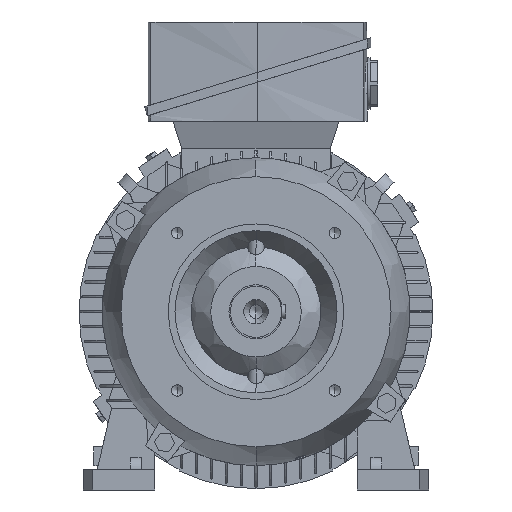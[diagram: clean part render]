
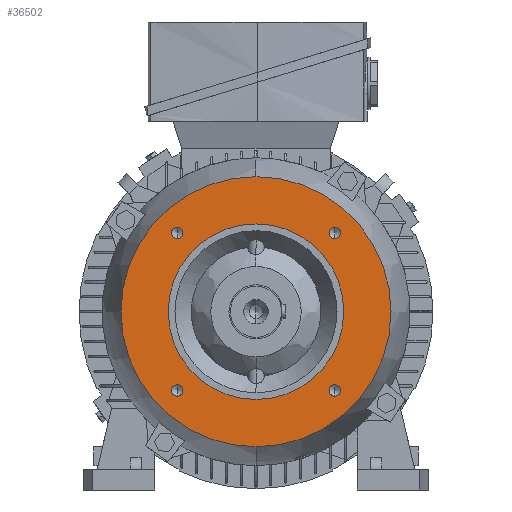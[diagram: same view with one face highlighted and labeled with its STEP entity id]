
A CAD part, left-side view. The second image highlights one B-rep face of the part: STEP entity #36502.
In plain terms, the highlighted planar face has unit normal (-1, 0, 0).
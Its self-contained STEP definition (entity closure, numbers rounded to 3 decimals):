
#356 = AXIS2_PLACEMENT_3D ( 'NONE', #37889, #33096, #31246 ) ;
#653 = AXIS2_PLACEMENT_3D ( 'NONE', #22185, #22124, #22115 ) ;
#660 = ORIENTED_EDGE ( 'NONE', *, *, #29118, .T. ) ;
#675 = AXIS2_PLACEMENT_3D ( 'NONE', #36195, #14345, #39709 ) ;
#1193 = VERTEX_POINT ( 'NONE', #29685 ) ;
#1333 = AXIS2_PLACEMENT_3D ( 'NONE', #14327, #39682, #18013 ) ;
#1375 = ORIENTED_EDGE ( 'NONE', *, *, #3208, .T. ) ;
#2162 = CARTESIAN_POINT ( 'NONE',  ( -50.5, 58.336, 62.526 ) ) ;
#2385 = FACE_BOUND ( 'NONE', #43590, .T. ) ;
#3208 = EDGE_CURVE ( 'NONE', #5893, #17225, #6634, .T. ) ;
#3733 = AXIS2_PLACEMENT_3D ( 'NONE', #17066, #16991, #16952 ) ;
#4449 = CARTESIAN_POINT ( 'NONE',  ( -50.5, 0., -100. ) ) ;
#5852 = AXIS2_PLACEMENT_3D ( 'NONE', #10610, #10177, #10008 ) ;
#5893 = VERTEX_POINT ( 'NONE', #28102 ) ;
#6286 = CARTESIAN_POINT ( 'NONE',  ( -50.5, -58.336, -58.336 ) ) ;
#6558 = CARTESIAN_POINT ( 'NONE',  ( -50.5, -58.336, 62.526 ) ) ;
#6629 = DIRECTION ( 'NONE',  ( 1., 0., 0. ) ) ;
#6634 = CIRCLE ( 'NONE', #3733, 65. ) ;
#6696 = CARTESIAN_POINT ( 'NONE',  ( -50.5, 0., 65. ) ) ;
#7767 = ORIENTED_EDGE ( 'NONE', *, *, #29263, .T. ) ;
#8067 = EDGE_CURVE ( 'NONE', #36523, #10291, #24068, .T. ) ;
#8604 = CIRCLE ( 'NONE', #5852, 100. ) ;
#10008 = DIRECTION ( 'NONE',  ( 0., 0., -1. ) ) ;
#10093 = DIRECTION ( 'NONE',  ( 0., 0., -1. ) ) ;
#10177 = DIRECTION ( 'NONE',  ( 1., 0., 0. ) ) ;
#10291 = VERTEX_POINT ( 'NONE', #42788 ) ;
#10610 = CARTESIAN_POINT ( 'NONE',  ( -50.5, 0., 0. ) ) ;
#12170 = AXIS2_PLACEMENT_3D ( 'NONE', #37758, #44901, #41304 ) ;
#12184 = EDGE_LOOP ( 'NONE', ( #44605, #41548 ) ) ;
#12401 = DIRECTION ( 'NONE',  ( 1., 0., 0. ) ) ;
#13694 = EDGE_CURVE ( 'NONE', #19109, #22440, #14865, .T. ) ;
#13972 = AXIS2_PLACEMENT_3D ( 'NONE', #34331, #12401, #37835 ) ;
#14327 = CARTESIAN_POINT ( 'NONE',  ( -50.5, 0., 82.5 ) ) ;
#14345 = DIRECTION ( 'NONE',  ( 1., 0., 0. ) ) ;
#14865 = CIRCLE ( 'NONE', #653, 4.19 ) ;
#15423 = AXIS2_PLACEMENT_3D ( 'NONE', #28789, #6629, #32400 ) ;
#16518 = EDGE_LOOP ( 'NONE', ( #31030, #33660 ) ) ;
#16952 = DIRECTION ( 'NONE',  ( 0., 0., 1. ) ) ;
#16991 = DIRECTION ( 'NONE',  ( 1., 0., 0. ) ) ;
#17066 = CARTESIAN_POINT ( 'NONE',  ( -50.5, 0., 0. ) ) ;
#17225 = VERTEX_POINT ( 'NONE', #6696 ) ;
#17656 = FACE_BOUND ( 'NONE', #40892, .T. ) ;
#18013 = DIRECTION ( 'NONE',  ( 0., 0., 1. ) ) ;
#18278 = CARTESIAN_POINT ( 'NONE',  ( -50.5, -58.336, -54.146 ) ) ;
#18955 = EDGE_CURVE ( 'NONE', #10291, #36523, #31721, .T. ) ;
#19109 = VERTEX_POINT ( 'NONE', #35308 ) ;
#19516 = VERTEX_POINT ( 'NONE', #26756 ) ;
#19828 = DIRECTION ( 'NONE',  ( 1., 0., 0. ) ) ;
#22115 = DIRECTION ( 'NONE',  ( 0., 0., -1. ) ) ;
#22124 = DIRECTION ( 'NONE',  ( 1., 0., 0. ) ) ;
#22185 = CARTESIAN_POINT ( 'NONE',  ( -50.5, -58.336, 58.336 ) ) ;
#22295 = EDGE_CURVE ( 'NONE', #42271, #39814, #31341, .T. ) ;
#22440 = VERTEX_POINT ( 'NONE', #6558 ) ;
#22635 = VERTEX_POINT ( 'NONE', #18278 ) ;
#23376 = EDGE_CURVE ( 'NONE', #19516, #38775, #8604, .T. ) ;
#24068 = CIRCLE ( 'NONE', #33538, 4.19 ) ;
#24553 = EDGE_CURVE ( 'NONE', #22440, #19109, #44600, .T. ) ;
#24643 = ORIENTED_EDGE ( 'NONE', *, *, #8067, .T. ) ;
#25344 = CIRCLE ( 'NONE', #29568, 4.19 ) ;
#26756 = CARTESIAN_POINT ( 'NONE',  ( -50.5, 0., 100. ) ) ;
#28102 = CARTESIAN_POINT ( 'NONE',  ( -50.5, 0., -65. ) ) ;
#28712 = CIRCLE ( 'NONE', #30862, 4.19 ) ;
#28742 = AXIS2_PLACEMENT_3D ( 'NONE', #42333, #42288, #42199 ) ;
#28789 = CARTESIAN_POINT ( 'NONE',  ( -50.5, 0., 0. ) ) ;
#29118 = EDGE_CURVE ( 'NONE', #22635, #1193, #28712, .T. ) ;
#29263 = EDGE_CURVE ( 'NONE', #1193, #22635, #25344, .T. ) ;
#29568 = AXIS2_PLACEMENT_3D ( 'NONE', #6286, #32090, #10093 ) ;
#29685 = CARTESIAN_POINT ( 'NONE',  ( -50.5, -58.336, -62.526 ) ) ;
#30862 = AXIS2_PLACEMENT_3D ( 'NONE', #41405, #19828, #45060 ) ;
#30943 = EDGE_LOOP ( 'NONE', ( #39475, #1375 ) ) ;
#31030 = ORIENTED_EDGE ( 'NONE', *, *, #45029, .T. ) ;
#31246 = DIRECTION ( 'NONE',  ( 0., 0., -1. ) ) ;
#31341 = CIRCLE ( 'NONE', #12170, 4.19 ) ;
#31721 = CIRCLE ( 'NONE', #28742, 4.19 ) ;
#32090 = DIRECTION ( 'NONE',  ( 1., 0., 0. ) ) ;
#32400 = DIRECTION ( 'NONE',  ( 0., 0., 1. ) ) ;
#33096 = DIRECTION ( 'NONE',  ( 1., 0., 0. ) ) ;
#33314 = CARTESIAN_POINT ( 'NONE',  ( -50.5, 58.336, 54.146 ) ) ;
#33538 = AXIS2_PLACEMENT_3D ( 'NONE', #41901, #41964, #42018 ) ;
#33660 = ORIENTED_EDGE ( 'NONE', *, *, #22295, .T. ) ;
#34331 = CARTESIAN_POINT ( 'NONE',  ( -50.5, 0., 0. ) ) ;
#35308 = CARTESIAN_POINT ( 'NONE',  ( -50.5, -58.336, 54.146 ) ) ;
#36195 = CARTESIAN_POINT ( 'NONE',  ( -50.5, 58.336, 58.336 ) ) ;
#36292 = ORIENTED_EDGE ( 'NONE', *, *, #13694, .T. ) ;
#36502 = ADVANCED_FACE ( 'NONE', ( #39224, #45861, #38100, #17656, #39582, #2385 ), #46832, .T. ) ;
#36523 = VERTEX_POINT ( 'NONE', #43242 ) ;
#36945 = CIRCLE ( 'NONE', #13972, 100. ) ;
#37045 = EDGE_LOOP ( 'NONE', ( #7767, #660 ) ) ;
#37758 = CARTESIAN_POINT ( 'NONE',  ( -50.5, 58.336, 58.336 ) ) ;
#37835 = DIRECTION ( 'NONE',  ( 0., 0., -1. ) ) ;
#37889 = CARTESIAN_POINT ( 'NONE',  ( -50.5, -58.336, 58.336 ) ) ;
#38100 = FACE_BOUND ( 'NONE', #16518, .T. ) ;
#38775 = VERTEX_POINT ( 'NONE', #4449 ) ;
#39224 = FACE_BOUND ( 'NONE', #30943, .T. ) ;
#39475 = ORIENTED_EDGE ( 'NONE', *, *, #41908, .T. ) ;
#39582 = FACE_BOUND ( 'NONE', #37045, .T. ) ;
#39682 = DIRECTION ( 'NONE',  ( -1., 0., 0. ) ) ;
#39709 = DIRECTION ( 'NONE',  ( 0., 0., -1. ) ) ;
#39814 = VERTEX_POINT ( 'NONE', #33314 ) ;
#40892 = EDGE_LOOP ( 'NONE', ( #24643, #43069 ) ) ;
#41304 = DIRECTION ( 'NONE',  ( 0., 0., -1. ) ) ;
#41405 = CARTESIAN_POINT ( 'NONE',  ( -50.5, -58.336, -58.336 ) ) ;
#41548 = ORIENTED_EDGE ( 'NONE', *, *, #23376, .F. ) ;
#41901 = CARTESIAN_POINT ( 'NONE',  ( -50.5, 58.336, -58.336 ) ) ;
#41908 = EDGE_CURVE ( 'NONE', #17225, #5893, #46315, .T. ) ;
#41964 = DIRECTION ( 'NONE',  ( 1., 0., 0. ) ) ;
#42018 = DIRECTION ( 'NONE',  ( 0., 0., -1. ) ) ;
#42169 = EDGE_CURVE ( 'NONE', #38775, #19516, #36945, .T. ) ;
#42199 = DIRECTION ( 'NONE',  ( 0., 0., -1. ) ) ;
#42271 = VERTEX_POINT ( 'NONE', #2162 ) ;
#42288 = DIRECTION ( 'NONE',  ( 1., 0., 0. ) ) ;
#42333 = CARTESIAN_POINT ( 'NONE',  ( -50.5, 58.336, -58.336 ) ) ;
#42788 = CARTESIAN_POINT ( 'NONE',  ( -50.5, 58.336, -54.146 ) ) ;
#43069 = ORIENTED_EDGE ( 'NONE', *, *, #18955, .T. ) ;
#43242 = CARTESIAN_POINT ( 'NONE',  ( -50.5, 58.336, -62.526 ) ) ;
#43590 = EDGE_LOOP ( 'NONE', ( #36292, #46167 ) ) ;
#44600 = CIRCLE ( 'NONE', #356, 4.19 ) ;
#44605 = ORIENTED_EDGE ( 'NONE', *, *, #42169, .F. ) ;
#44901 = DIRECTION ( 'NONE',  ( 1., 0., 0. ) ) ;
#45029 = EDGE_CURVE ( 'NONE', #39814, #42271, #46490, .T. ) ;
#45060 = DIRECTION ( 'NONE',  ( 0., 0., -1. ) ) ;
#45861 = FACE_OUTER_BOUND ( 'NONE', #12184, .T. ) ;
#46167 = ORIENTED_EDGE ( 'NONE', *, *, #24553, .T. ) ;
#46315 = CIRCLE ( 'NONE', #15423, 65. ) ;
#46490 = CIRCLE ( 'NONE', #675, 4.19 ) ;
#46832 = PLANE ( 'NONE',  #1333 ) ;
